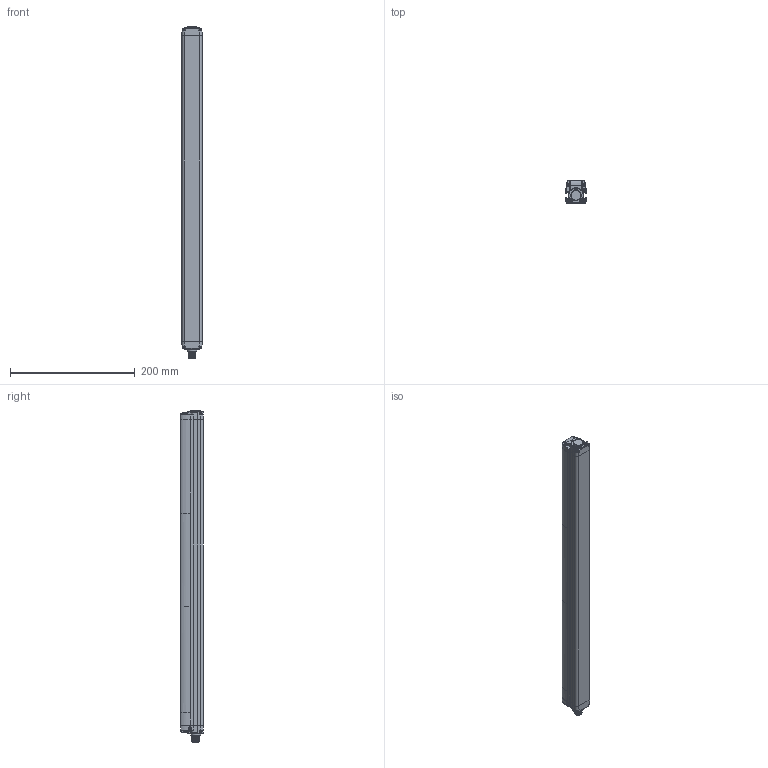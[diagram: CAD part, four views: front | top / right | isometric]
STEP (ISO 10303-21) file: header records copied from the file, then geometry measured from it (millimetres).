
FILE_DESCRIPTION(/* description */ (''),/* implementation_level */ '2;1');
FILE_NAME(/* name */ 'DSD-0159.stp',/* time_stamp */ '2020-07-16T10:01:43+02:00',/* author */ (''),/* organization */ (''),/* preprocessor_version */ 'ST-DEVELOPER v16.7',/* originating_system */ 'SIEMENS PLM Software NX 12.0',/* authorisation */ '');
FILE_SCHEMA (('AUTOMOTIVE_DESIGN { 1 0 10303 214 3 1 1 1 }'));
Products named in the file (1): AP025808_00_1-DSD-0159
Bounding box: 32.3 x 36.9 x 533.34 mm (x, y, z)
Volume: 507841.3 mm3; surface area: 127556.8 mm2
Topology: 12 solids, 716 shells, 1627 faces, 5091 edges, 4007 vertices
Faces by surface type: cylinder 608, bspline 555, plane 378, sphere 49, cone 29, torus 8
Full cylindrical faces by diameter (mm): 1 x10, 1.5 x6, 2 x6, 2.05 x4, 2.5 x12, 2.7 x10, 2.9 x6, 3 x12, 3.4 x6, 3.6 x12, 4.7 x2, 5 x10, 5.3 x2, 7.5 x1, 8 x1, 8.2 x1, 9.3 x1, 9.5 x1, 9.55 x1, 10.5 x1, 11 x2, 12 x12, 13.97 x1, 14.3 x1, 16 x2
Entity records: 84161 total; most frequent: CARTESIAN_POINT 35710, ORIENTED_EDGE 6918, DIRECTION 5949, EDGE_CURVE 4885, VERTEX_POINT 4004, AXIS2_PLACEMENT_3D 2328, EDGE_LOOP 1865, PRESENTATION_STYLE_ASSIGNMENT 1636
